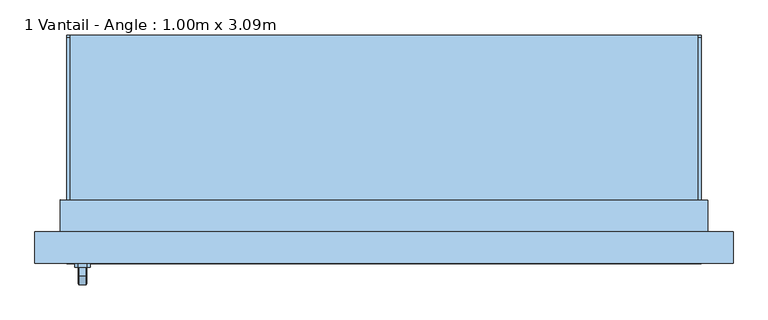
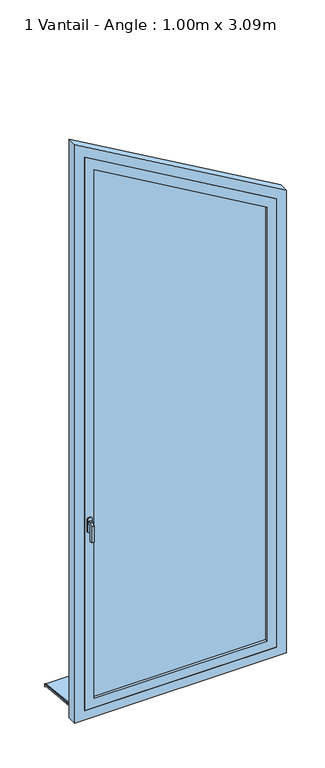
"""IFC4 building model written with IfcOpenShell, lengths in millimetres: window geometry, 1 Vantail - Angle : 1.00m x 3.09m."""

from ifc_helpers import new_model, si_unit, point, frame, frame_2d, origin, place, context, project, spatial, polyline, circle_curve, trimmed, segment, composite_curve, outline, extrude, faceted_brep, source, transform, mapped, element, save


def window_1_vantail_angle_1_00m_x_3_09m_aeb0207c(model_context):
    return source(origin(), model_context, "Body", "SolidModel", [
        faceted_brep([(-469.3539903, -181.0, 1122.0339292), (-467.9660708, -181.0, 1120.6460097), (-467.9660708, -181.0, 1109.3323012), (-469.3323012, -181.0, 1107.9660708), (-480.6676988, -181.0, 1107.9660708), (-482.0339292, -181.0, 1109.3323012), (-482.0339292, -181.0, 1120.6460097), (-480.6460097, -181.0, 1122.0339292), (-469.3539903, -193.9135489, 1122.0339292), (-467.9660708, -193.3386538, 1120.6460097), (-467.9660708, -206.6460097, 1107.3386538), (-467.9660708, -206.6460097, 1020.0), (-467.9660708, -195.3323012, 1020.0), (-467.9660708, -195.3323012, 1102.6523623), (-467.9660708, -188.6523623, 1109.3323012), (-469.3323012, -188.0864511, 1107.9660708), (-480.6676988, -188.0864511, 1107.9660708), (-482.0339292, -188.6523623, 1109.3323012), (-482.0339292, -195.3323012, 1102.6523623), (-482.0339292, -195.3323012, 1020.0), (-482.0339292, -206.6460097, 1020.0), (-482.0339292, -206.6460097, 1107.3386538), (-482.0339292, -193.3386538, 1120.6460097), (-480.6460097, -193.9135489, 1122.0339292), (-469.3539903, -208.0339292, 1107.9135489), (-469.3323012, -193.9660708, 1102.0864511), (-480.6676988, -193.9660708, 1102.0864511), (-480.6460097, -208.0339292, 1107.9135489), (-469.3539903, -208.0339292, 1020.0), (-480.6460097, -208.0339292, 1020.0), (-480.6676988, -193.9660708, 1020.0), (-469.3323012, -193.9660708, 1020.0)], [[[0, 1, 2, 3, 4, 5, 6, 7]], [[1, 0, 8, 9]], [[2, 1, 9, 10, 11, 12, 13, 14]], [[3, 2, 14, 15]], [[4, 3, 15, 16]], [[5, 4, 16, 17]], [[6, 5, 17, 18, 19, 20, 21, 22]], [[7, 6, 22, 23]], [[0, 7, 23, 8]], [[9, 8, 24, 10]], [[15, 14, 13, 25]], [[16, 15, 25, 26]], [[17, 16, 26, 18]], [[23, 22, 21, 27]], [[8, 23, 27, 24]], [[28, 29, 20, 19, 30, 31, 12, 11]], [[10, 24, 28, 11]], [[25, 13, 12, 31]], [[26, 25, 31, 30]], [[18, 26, 30, 19]], [[27, 21, 20, 29]], [[24, 27, 29, 28]]]),
        extrude(outline(polyline([(1140.0, -468.0), (1140.0, -482.0), (1135.0, -487.0), (1065.0, -487.0), (1060.0, -482.0), (1060.0, -468.0), (1065.0, -463.0), (1135.0, -463.0), (1140.0, -468.0)])), frame((0.0, -181.0, 0.0), z_axis=(0.0, 1.0, 0.0), x_axis=(0.0, 0.0, 1.0)), (0.0, 0.0, 1.0), 6.0),
        extrude(outline(polyline([(185.0288776, 10.8229907), (185.0288776, -0.2552118), (180.0288776, 0.2703094), (180.0288776, 6.0933001), (-95.0, 35.0), (-95.0, 50.0), (-90.0, 50.0), (-90.0, 39.7296906), (185.0288776, 10.8229907)])), frame((-500.0, 0.0, 0.0), z_axis=(1.0, 0.0, 0.0), x_axis=(0.0, 1.0, 0.0)), (0.0, 0.0, 1.0), 1000.0),
        extrude(outline(composite_curve([segment(polyline([(185.0288776, 10.8229907), (-90.0, 39.7296906), (-90.0, 44.757232), (181.4469915, 16.2270035)]), True, "CONTINUOUS"), segment(trimmed(circle_curve(frame_2d((181.0288776, 12.2489159)), 4.0), [point((181.4469915, 16.2270035))], [point((185.0288776, 12.2489159))], False, "CARTESIAN"), True, "CONTINUOUS"), segment(polyline([(185.0288776, 12.2489159), (185.0288776, 10.8229907)]), True, "CONTINUOUS")], self_intersect=False)), frame((-500.0, 0.0, 0.0), z_axis=(1.0, 0.0, 0.0), x_axis=(0.0, 1.0, 0.0)), (0.0, 0.0, 1.0), 5.0),
        extrude(outline(composite_curve([segment(polyline([(185.0288776, 10.8229907), (-90.0, 39.7296906), (-90.0, 44.757232), (181.4469915, 16.2270035)]), True, "CONTINUOUS"), segment(trimmed(circle_curve(frame_2d((181.0288776, 12.2489159)), 4.0), [point((181.4469915, 16.2270035))], [point((185.0288776, 12.2489159))], False, "CARTESIAN"), True, "CONTINUOUS"), segment(polyline([(185.0288776, 12.2489159), (185.0288776, 10.8229907)]), True, "CONTINUOUS")], self_intersect=False)), frame((495.0, 0.0, 0.0), z_axis=(1.0, 0.0, 0.0), x_axis=(0.0, 1.0, 0.0)), (0.0, 0.0, 1.0), 5.0),
        extrude(outline(polyline([(35.0, -510.0), (35.0, -500.0), (3125.0, -500.0), (2547.6497308, 500.0), (35.0, 500.0), (35.0, 510.0), (2553.4232335, 510.0), (3142.3205081, -510.0), (35.0, -510.0)])), frame((0.0, -125.0, 0.0), z_axis=(0.0, 1.0, 0.0), x_axis=(0.0, 0.0, 1.0)), (0.0, 0.0, 1.0), 50.0),
        faceted_brep([(-550.0, -175.0, 35.0), (-550.0, -125.0, 35.0), (-500.0, -125.0, 35.0), (-500.0, -95.0, 35.0), (500.0, -95.0, 35.0), (500.0, -125.0, 35.0), (550.0, -125.0, 35.0), (550.0, -175.0, 35.0), (-550.0, -175.0, 3211.6025404), (-550.0, -125.0, 3211.6025404), (550.0, -125.0, 2576.5172443), (500.0, -125.0, 74.3761425), (-500.0, -125.0, 74.3761425), (-485.0, -125.0, 3099.0192379), (-485.0, -125.0, 100.0), (485.0, -125.0, 100.0), (485.0, -125.0, 2538.9894768), (-500.0, -75.0, 60.9786829), (-500.0, -75.0, 45.0), (-500.0, -85.0, 45.0), (-500.0, -85.0, 50.0), (-500.0, -95.0, 50.0), (500.0, -95.0, 50.0), (500.0, -85.0, 50.0), (500.0, -85.0, 45.0), (500.0, -75.0, 45.0), (500.0, -75.0, 60.9786829), (550.0, -175.0, 2576.5172443), (500.0, -175.0, 2547.6497308), (500.0, -175.0, 85.0), (-500.0, -175.0, 85.0), (-500.0, -175.0, 3125.0), (-485.0, -135.0, 3099.0192379), (-485.0, -135.0, 100.0), (485.0, -135.0, 100.0), (485.0, -135.0, 2538.9894768), (500.0, -135.0, 2547.6497308), (-500.0, -135.0, 3125.0), (-500.0, -135.0, 85.0), (500.0, -135.0, 85.0)], [[[0, 1, 2, 3, 4, 5, 6, 7]], [[1, 0, 8, 9]], [[1, 9, 10, 6, 5, 11, 12, 2], [13, 14, 15, 16]], [[12, 17, 18, 19, 20, 21, 3, 2]], [[3, 21, 22, 4]], [[4, 22, 23, 24, 25, 26, 11, 5]], [[6, 10, 27, 7]], [[0, 7, 27, 8], [28, 29, 30, 31]], [[13, 32, 33, 14]], [[33, 34, 15, 14]], [[35, 16, 15, 34]], [[17, 12, 11, 26]], [[36, 37, 38, 39], [32, 35, 34, 33]], [[38, 37, 31, 30]], [[30, 29, 39, 38]], [[28, 36, 39, 29]], [[18, 17, 26, 25]], [[19, 18, 25, 24]], [[20, 19, 24, 23]], [[21, 20, 23, 22]], [[13, 16, 35, 32]], [[10, 9, 8, 27]], [[37, 36, 28, 31]]]),
        extrude(outline(polyline([(2547.6497308, 500.0), (3125.0, -500.0), (85.0, -500.0), (85.0, 500.0), (2547.6497308, 500.0)]), holes=[polyline([(3038.3974596, -450.0), (2518.7822174, 450.0), (135.0, 450.0), (135.0, -450.0), (3038.3974596, -450.0)])]), frame((0.0, -175.0, 0.0), z_axis=(0.0, 1.0, 0.0), x_axis=(0.0, 0.0, 1.0)), (0.0, 0.0, 1.0), 40.0),
        extrude(outline(polyline([(135.0, -450.0), (135.0, 450.0), (2518.7822174, 450.0), (3038.3974596, -450.0), (135.0, -450.0)])), frame((0.0, -161.0, 0.0), z_axis=(0.0, 1.0, 0.0), x_axis=(0.0, 0.0, 1.0)), (0.0, 0.0, 1.0), 12.0),
    ])


if __name__ == "__main__":
    model = new_model("IFC4")
    model_context = context("Model", 3, world=origin())
    ifc_project = project(units=[si_unit("LENGTHUNIT", "METRE", prefix="MILLI")], contexts=[model_context])
    site = spatial("IfcSite", under=ifc_project)
    building = spatial("IfcBuilding", under=site)
    placement = place(None, origin())
    window_1_vantail_angle_1_00m_x_3_09m_shape = window_1_vantail_angle_1_00m_x_3_09m_aeb0207c(model_context)
    element("IfcWindow", 1, ObjectType="1 Vantail - Angle : 1.00m x 3.09m", at=placement, inside=building, context=model_context, shape_type="MappedRepresentation", body=[
        mapped(window_1_vantail_angle_1_00m_x_3_09m_shape, transform((0.0, 0.0, 0.0), x_axis=(1.0, 0.0, 0.0), y_axis=(0.0, 1.0, 0.0), z_axis=(0.0, 0.0, 1.0))),
    ])
    save(model, "model.ifc")
